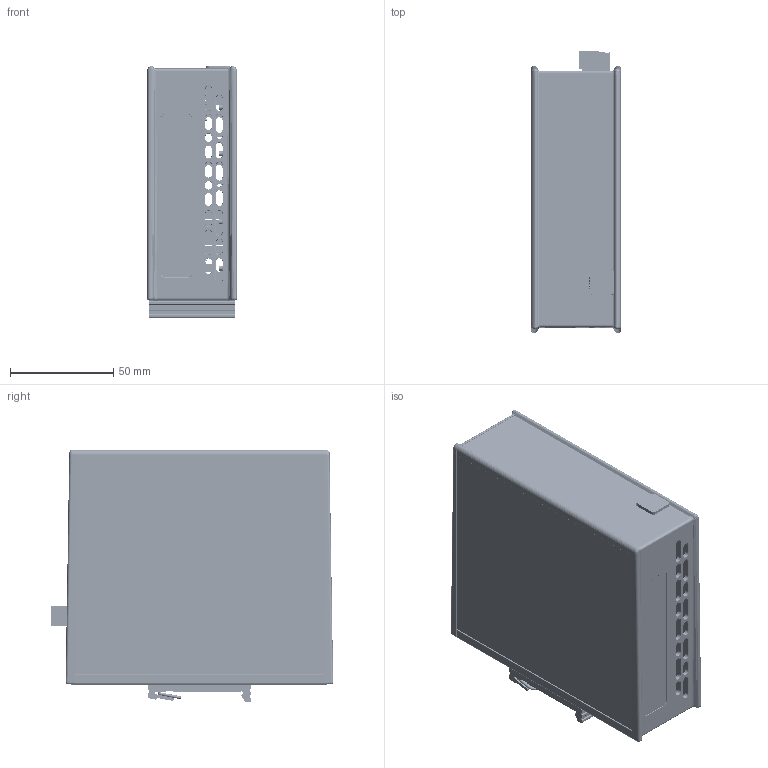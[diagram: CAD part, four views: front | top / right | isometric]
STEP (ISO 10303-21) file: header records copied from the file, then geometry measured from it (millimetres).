
FILE_DESCRIPTION (( 'STEP AP214' ), '1' );
FILE_NAME ('ABX LCM generic front,s.STEP', '2014-05-16T08:46:50', ( 'lo' ), ( 'Microsoft' ), 'SwSTEP 2.0', 'SolidWorks 2013', '' );
FILE_SCHEMA (( 'AUTOMOTIVE_DESIGN' ));
Length unit declared in the file: millimetre
Products named in the file (18): etikett; MSTBT_2.5_2_ST; ABX Classic LCM modul_Utan ABS,er; RS0139; RS0595; SP1723; SP1680; RS0551; RA0474; RA0358; M00714; SP1681; SP1664; SP1666; ABX LCM generic front,s; SP1665; RM0134_MFT-8_8-M3x8-fzb; SP1698
Assembly tree (35 placements, depth 3):
  ABX LCM generic front,s
    SP1664
    SP1681
    ABX Classic LCM modul_Utan ABS,er
      M00714
      RA0358
      RA0474  x2
      RS0551
      SP1680  x2
      RS0595  x2
      RS0139  x11
    MSTBT_2.5_2_ST
    etikett
    SP1723
    SP1698
    RM0134_MFT-8_8-M3x8-fzb  x6
    SP1665
    SP1666
Bounding box: 43.4 x 136.83 x 122.23 mm (x, y, z)
Volume: 136670.5 mm3; surface area: 155810.1 mm2
Topology: 34 solids, 35 shells, 7363 faces, 19162 edges, 12220 vertices
Faces by surface type: plane 3705, cylinder 1890, bspline 846, cone 740, torus 112, sphere 70
Entity records: 187001 total; most frequent: CARTESIAN_POINT 59880, ORIENTED_EDGE 23942, DIRECTION 21128, EDGE_CURVE 11971, VERTEX_POINT 7700, LINE 7346, VECTOR 7346, AXIS2_PLACEMENT_3D 6891
